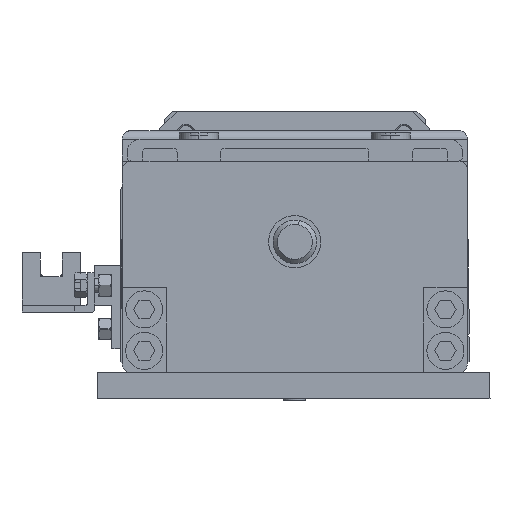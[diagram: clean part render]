
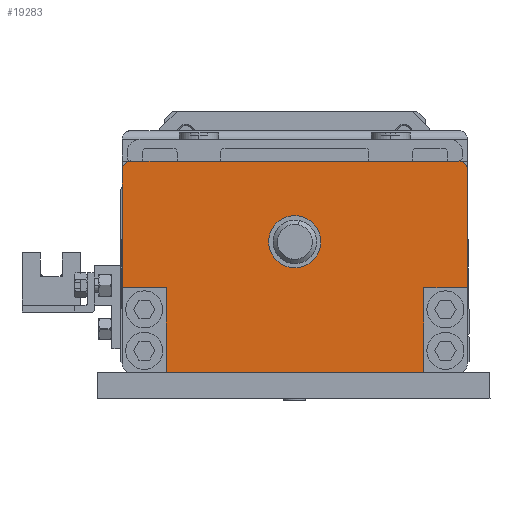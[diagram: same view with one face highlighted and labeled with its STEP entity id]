
A CAD part, left-side view. The second image highlights one B-rep face of the part: STEP entity #19283.
In plain terms, the highlighted planar face has unit normal (-1, 0, 0) as drawn and (1, 0, 0) by its records, which use the part's own axes.
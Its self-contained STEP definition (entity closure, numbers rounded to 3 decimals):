
#1424 = LINE ( 'NONE', #41763, #62604 ) ;
#1898 = DIRECTION ( 'NONE',  ( 0., 0., -1. ) ) ;
#4649 = EDGE_CURVE ( 'NONE', #29926, #65285, #44844, .T. ) ;
#5383 = DIRECTION ( 'NONE',  ( 0., 1., 0. ) ) ;
#5708 = VERTEX_POINT ( 'NONE', #8627 ) ;
#6522 = VERTEX_POINT ( 'NONE', #51043 ) ;
#7119 = AXIS2_PLACEMENT_3D ( 'NONE', #60215, #49969, #16415 ) ;
#7293 = LINE ( 'NONE', #40779, #33471 ) ;
#8627 = CARTESIAN_POINT ( 'NONE',  ( 677., -10.5, 39.6 ) ) ;
#8677 = VECTOR ( 'NONE', #23587, 1000. ) ;
#9370 = EDGE_CURVE ( 'NONE', #5708, #32128, #1424, .T. ) ;
#9382 = CARTESIAN_POINT ( 'NONE',  ( 677., 18.5, 41.583 ) ) ;
#9717 = AXIS2_PLACEMENT_3D ( 'NONE', #17911, #34780, #45840 ) ;
#10262 = VERTEX_POINT ( 'NONE', #15096 ) ;
#10379 = VERTEX_POINT ( 'NONE', #20464 ) ;
#11100 = ORIENTED_EDGE ( 'NONE', *, *, #70556, .T. ) ;
#13595 = EDGE_CURVE ( 'NONE', #59461, #14050, #20020, .T. ) ;
#14050 = VERTEX_POINT ( 'NONE', #38900 ) ;
#15096 = CARTESIAN_POINT ( 'NONE',  ( 677., 16.5, 39.6 ) ) ;
#15131 = ORIENTED_EDGE ( 'NONE', *, *, #47701, .T. ) ;
#16246 = DIRECTION ( 'NONE',  ( 0., 0., -1. ) ) ;
#16415 = DIRECTION ( 'NONE',  ( 0., 0., -1. ) ) ;
#16537 = LINE ( 'NONE', #67350, #59437 ) ;
#17337 = ORIENTED_EDGE ( 'NONE', *, *, #9370, .T. ) ;
#17911 = CARTESIAN_POINT ( 'NONE',  ( 677., -31.216, 41.583 ) ) ;
#18458 = CARTESIAN_POINT ( 'NONE',  ( 677., -10.5, -29.6 ) ) ;
#18996 = LINE ( 'NONE', #50364, #68838 ) ;
#19283 = ADVANCED_FACE ( 'NONE', ( #44759, #56099 ), #40243, .T. ) ;
#20020 = CIRCLE ( 'NONE', #45154, 6. ) ;
#20464 = CARTESIAN_POINT ( 'NONE',  ( 677., -30., 29.5 ) ) ;
#21385 = EDGE_CURVE ( 'NONE', #48508, #22009, #37152, .T. ) ;
#22009 = VERTEX_POINT ( 'NONE', #18458 ) ;
#22362 = CARTESIAN_POINT ( 'NONE',  ( 677., 18.5, 37.6 ) ) ;
#22788 = DIRECTION ( 'NONE',  ( 0., 1., 0. ) ) ;
#23587 = DIRECTION ( 'NONE',  ( 0., 1., 0. ) ) ;
#23890 = AXIS2_PLACEMENT_3D ( 'NONE', #55145, #72223, #16246 ) ;
#24206 = CARTESIAN_POINT ( 'NONE',  ( 677., 0., 0. ) ) ;
#24591 = ORIENTED_EDGE ( 'NONE', *, *, #21385, .T. ) ;
#25561 = AXIS2_PLACEMENT_3D ( 'NONE', #64984, #43064, #64760 ) ;
#27630 = ORIENTED_EDGE ( 'NONE', *, *, #45291, .T. ) ;
#29034 = LINE ( 'NONE', #49717, #64853 ) ;
#29868 = CIRCLE ( 'NONE', #7119, 2. ) ;
#29926 = VERTEX_POINT ( 'NONE', #53950 ) ;
#31577 = EDGE_CURVE ( 'NONE', #14050, #59461, #45008, .T. ) ;
#32128 = VERTEX_POINT ( 'NONE', #41856 ) ;
#33471 = VECTOR ( 'NONE', #69255, 1000. ) ;
#34780 = DIRECTION ( 'NONE',  ( 1., 0., 0. ) ) ;
#37152 = LINE ( 'NONE', #56302, #39802 ) ;
#37287 = ORIENTED_EDGE ( 'NONE', *, *, #13595, .T. ) ;
#38900 = CARTESIAN_POINT ( 'NONE',  ( 677., 0., -6. ) ) ;
#39337 = CARTESIAN_POINT ( 'NONE',  ( 677., -30.491, 29.5 ) ) ;
#39802 = VECTOR ( 'NONE', #22788, 1000. ) ;
#40243 = PLANE ( 'NONE',  #9717 ) ;
#40681 = VERTEX_POINT ( 'NONE', #54559 ) ;
#40779 = CARTESIAN_POINT ( 'NONE',  ( 677., -30., -39.483 ) ) ;
#41178 = DIRECTION ( 'NONE',  ( 0., 0., -1. ) ) ;
#41185 = ORIENTED_EDGE ( 'NONE', *, *, #68495, .F. ) ;
#41283 = EDGE_CURVE ( 'NONE', #22009, #6522, #16537, .T. ) ;
#41763 = CARTESIAN_POINT ( 'NONE',  ( 677., -10.5, 41.583 ) ) ;
#41856 = CARTESIAN_POINT ( 'NONE',  ( 677., -10.5, 29.5 ) ) ;
#43064 = DIRECTION ( 'NONE',  ( 1., 0., 0. ) ) ;
#44759 = FACE_OUTER_BOUND ( 'NONE', #69651, .T. ) ;
#44844 = LINE ( 'NONE', #9382, #47439 ) ;
#45008 = CIRCLE ( 'NONE', #23890, 6. ) ;
#45154 = AXIS2_PLACEMENT_3D ( 'NONE', #24206, #68935, #41178 ) ;
#45291 = EDGE_CURVE ( 'NONE', #65285, #10262, #69968, .T. ) ;
#45840 = DIRECTION ( 'NONE',  ( 0., 0., -1. ) ) ;
#47439 = VECTOR ( 'NONE', #71128, 1000. ) ;
#47701 = EDGE_CURVE ( 'NONE', #10262, #5708, #29034, .T. ) ;
#47774 = EDGE_CURVE ( 'NONE', #40681, #29926, #29868, .T. ) ;
#48159 = ORIENTED_EDGE ( 'NONE', *, *, #4649, .T. ) ;
#48508 = VERTEX_POINT ( 'NONE', #65810 ) ;
#49717 = CARTESIAN_POINT ( 'NONE',  ( 677., -31.216, 39.6 ) ) ;
#49969 = DIRECTION ( 'NONE',  ( 1., 0., 0. ) ) ;
#50364 = CARTESIAN_POINT ( 'NONE',  ( 677., -31.216, -39.6 ) ) ;
#51043 = CARTESIAN_POINT ( 'NONE',  ( 677., -10.5, -39.6 ) ) ;
#51930 = ORIENTED_EDGE ( 'NONE', *, *, #60870, .T. ) ;
#53950 = CARTESIAN_POINT ( 'NONE',  ( 677., 18.5, -37.6 ) ) ;
#54559 = CARTESIAN_POINT ( 'NONE',  ( 677., 16.5, -39.6 ) ) ;
#55145 = CARTESIAN_POINT ( 'NONE',  ( 677., 0., 0. ) ) ;
#56099 = FACE_BOUND ( 'NONE', #62329, .T. ) ;
#56302 = CARTESIAN_POINT ( 'NONE',  ( 677., -30.491, -29.6 ) ) ;
#59437 = VECTOR ( 'NONE', #1898, 1000. ) ;
#59461 = VERTEX_POINT ( 'NONE', #71318 ) ;
#60215 = CARTESIAN_POINT ( 'NONE',  ( 677., 16.5, -37.6 ) ) ;
#60870 = EDGE_CURVE ( 'NONE', #6522, #40681, #18996, .T. ) ;
#60930 = DIRECTION ( 'NONE',  ( 0., -1., 0. ) ) ;
#62329 = EDGE_LOOP ( 'NONE', ( #70832, #37287 ) ) ;
#62604 = VECTOR ( 'NONE', #64122, 1000. ) ;
#62830 = LINE ( 'NONE', #39337, #8677 ) ;
#64122 = DIRECTION ( 'NONE',  ( 0., 0., -1. ) ) ;
#64760 = DIRECTION ( 'NONE',  ( 0., 0., -1. ) ) ;
#64853 = VECTOR ( 'NONE', #60930, 1000. ) ;
#64984 = CARTESIAN_POINT ( 'NONE',  ( 677., 16.5, 37.6 ) ) ;
#65285 = VERTEX_POINT ( 'NONE', #22362 ) ;
#65810 = CARTESIAN_POINT ( 'NONE',  ( 677., -30., -29.6 ) ) ;
#67350 = CARTESIAN_POINT ( 'NONE',  ( 677., -10.5, 41.583 ) ) ;
#67689 = ORIENTED_EDGE ( 'NONE', *, *, #47774, .T. ) ;
#68495 = EDGE_CURVE ( 'NONE', #10379, #32128, #62830, .T. ) ;
#68838 = VECTOR ( 'NONE', #5383, 1000. ) ;
#68935 = DIRECTION ( 'NONE',  ( -1., 0., 0. ) ) ;
#69255 = DIRECTION ( 'NONE',  ( 0., 0., -1. ) ) ;
#69651 = EDGE_LOOP ( 'NONE', ( #51930, #67689, #48159, #27630, #15131, #17337, #41185, #11100, #24591, #71207 ) ) ;
#69968 = CIRCLE ( 'NONE', #25561, 2. ) ;
#70556 = EDGE_CURVE ( 'NONE', #10379, #48508, #7293, .T. ) ;
#70832 = ORIENTED_EDGE ( 'NONE', *, *, #31577, .T. ) ;
#71128 = DIRECTION ( 'NONE',  ( 0., 0., 1. ) ) ;
#71207 = ORIENTED_EDGE ( 'NONE', *, *, #41283, .T. ) ;
#71318 = CARTESIAN_POINT ( 'NONE',  ( 677., 0., 6. ) ) ;
#72223 = DIRECTION ( 'NONE',  ( -1., 0., 0. ) ) ;
